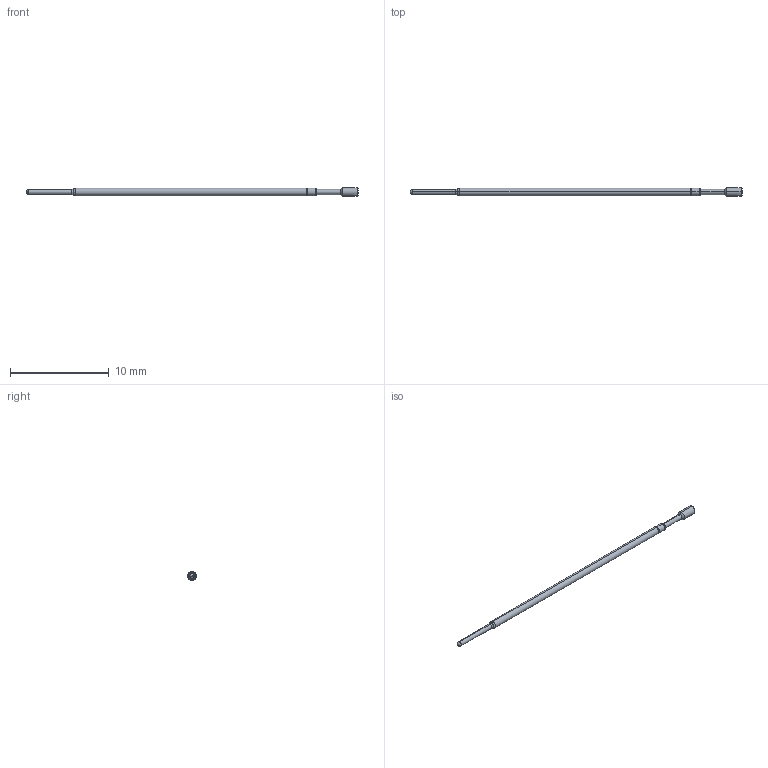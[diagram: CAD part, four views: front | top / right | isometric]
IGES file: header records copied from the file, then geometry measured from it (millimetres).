
Start section: SolidWorks IGES file using analytic representation for surfaces
Global section: file name: C:\Documents and Settings\mrumschlag\Desktop\changes\new\test\H21 RECD.IGS; native system: SolidWorks 2011; preprocessor: SolidWorks 2011; author: mrumschlag; date: 110630.142736; units: inch
Bounding box: 33.69 x 0.89 x 0.89 mm (x, y, z)
Surface area: 76.7 mm2 (no closed solid volume)
Topology: 0 solids, 0 shells, 119 faces, 486 edges, 484 vertices
Faces by surface type: bspline 101, revolution 18
